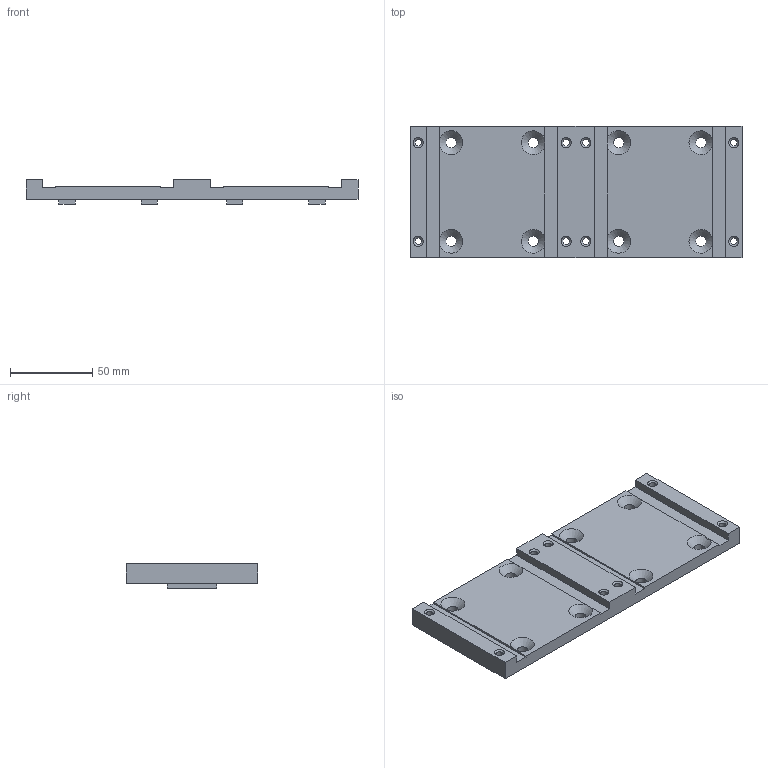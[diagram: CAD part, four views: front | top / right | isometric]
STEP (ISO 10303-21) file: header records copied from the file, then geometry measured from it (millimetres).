
FILE_DESCRIPTION(('STEP AP203'), '1');
FILE_NAME('ÒÏÏÔ1801.01.30.00.002 - Ïëîùàäêà ïðèâîäà', '', ('UNSPECIFIED'), ('UNSPECIFIED'), 'C3D Converter', 'C3D Toolkit', '');
FILE_SCHEMA(('CONFIG_CONTROL_DESIGN'));
Length unit declared in the file: millimetre
Products named in the file (1): ТППФ1801.01.30.00.002
Bounding box: 202 x 80 x 15 mm (x, y, z)
Volume: 138444.9 mm3; surface area: 42158.2 mm2
Topology: 1 solids, 1 shells, 74 faces, 212 edges, 136 vertices
Faces by surface type: plane 42, cylinder 16, cone 16
Full cylindrical faces by diameter (mm): 4.134 x8, 6.5 x8
Entity records: 3268 total; most frequent: CARTESIAN_POINT 747, DIRECTION 370, ORIENTED_EDGE 360, EDGE_CURVE 180, VERTEX_POINT 136, EDGE_LOOP 134, AXIS2_PLACEMENT_3D 127, LINE 116
